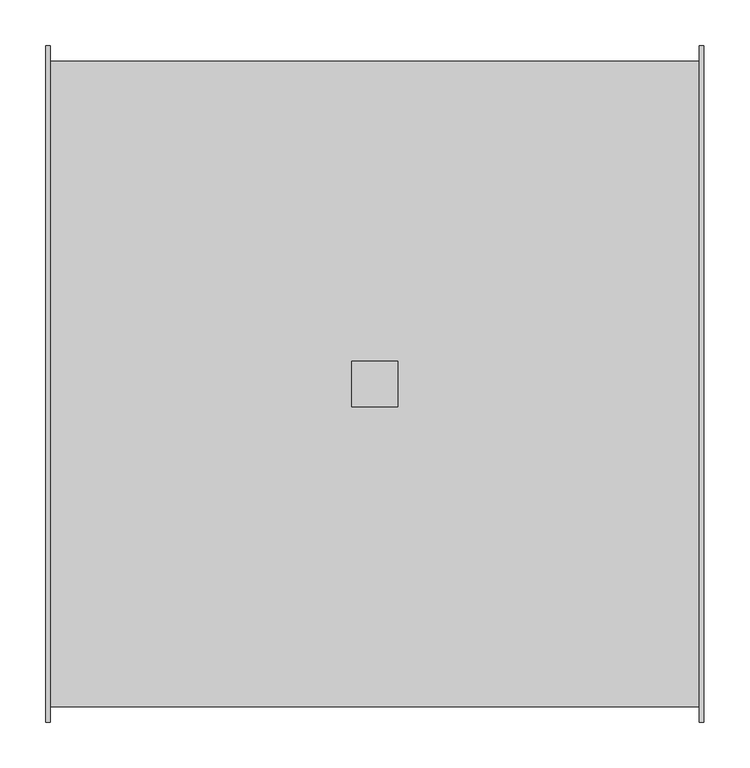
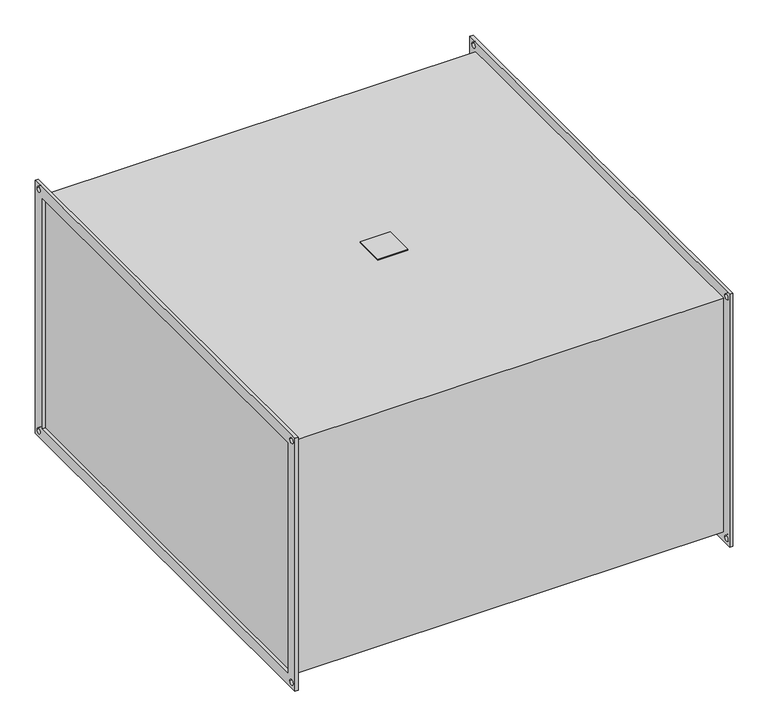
"""IFC4 building model written with IfcOpenShell, lengths in millimetres: damper geometry, KORF_Фильтр_Карманный_FKR : FKR 70-40  EU3."""

from ifc_helpers import new_model, si_unit, point, frame, frame_2d, origin, place, context, project, spatial, polyline, circle_curve, trimmed, segment, composite_curve, outline, extrude, source, transform, mapped, element, save


def damper_9ce763fa(model_context):
    return source(origin(), model_context, "Body", "SweptSolid", [
        extrude(outline(polyline([(335.0, -25.0), (335.0, 25.0), (385.0, 25.0), (385.0, -25.0), (335.0, -25.0)])), frame((0.0, 0.0, 203.0), z_axis=(0.0, 0.0, 1.0), x_axis=(1.0, 0.0, 0.0)), (0.0, 0.0, 1.0), 2.0),
        extrude(outline(polyline([(-370.0, 220.0), (370.0, 220.0), (370.0, -220.0), (-370.0, -220.0), (-370.0, 220.0)]), holes=[polyline([(-350.0, 200.0), (-350.0, -200.0), (350.0, -200.0), (350.0, 200.0), (-350.0, 200.0)]), composite_curve([segment(trimmed(circle_curve(frame_2d((360.0, 210.0)), 4.5), [point((355.5, 210.0))], [point((364.5, 210.0))], True, "CARTESIAN"), True, "CONTINUOUS"), segment(trimmed(circle_curve(frame_2d((360.0, 210.0)), 4.5), [point((364.5, 210.0))], [point((355.5, 210.0))], True, "CARTESIAN"), True, "CONTINUOUS")], self_intersect=False), composite_curve([segment(trimmed(circle_curve(frame_2d((-360.0, 210.0)), 4.5), [point((-364.5, 210.0))], [point((-355.5, 210.0))], True, "CARTESIAN"), True, "CONTINUOUS"), segment(trimmed(circle_curve(frame_2d((-360.0, 210.0)), 4.5), [point((-355.5, 210.0))], [point((-364.5, 210.0))], True, "CARTESIAN"), True, "CONTINUOUS")], self_intersect=False), composite_curve([segment(trimmed(circle_curve(frame_2d((-360.0, -210.0)), 4.5), [point((-364.5, -210.0))], [point((-355.5, -210.0))], True, "CARTESIAN"), True, "CONTINUOUS"), segment(trimmed(circle_curve(frame_2d((-360.0, -210.0)), 4.5), [point((-355.5, -210.0))], [point((-364.5, -210.0))], True, "CARTESIAN"), True, "CONTINUOUS")], self_intersect=False), composite_curve([segment(trimmed(circle_curve(frame_2d((360.0, -210.0)), 4.5), [point((355.5, -210.0))], [point((364.5, -210.0))], True, "CARTESIAN"), True, "CONTINUOUS"), segment(trimmed(circle_curve(frame_2d((360.0, -210.0)), 4.5), [point((364.5, -210.0))], [point((355.5, -210.0))], True, "CARTESIAN"), True, "CONTINUOUS")], self_intersect=False)]), frame((715.0, 0.0, 0.0), z_axis=(1.0, 0.0, 0.0), x_axis=(0.0, 1.0, 0.0)), (0.0, 0.0, 1.0), 5.0),
        extrude(outline(polyline([(-370.0, 220.0), (370.0, 220.0), (370.0, -220.0), (-370.0, -220.0), (-370.0, 220.0)]), holes=[polyline([(-350.0, 200.0), (-350.0, -200.0), (350.0, -200.0), (350.0, 200.0), (-350.0, 200.0)]), composite_curve([segment(trimmed(circle_curve(frame_2d((360.0, 210.0)), 4.5), [point((355.5, 210.0))], [point((364.5, 210.0))], True, "CARTESIAN"), True, "CONTINUOUS"), segment(trimmed(circle_curve(frame_2d((360.0, 210.0)), 4.5), [point((364.5, 210.0))], [point((355.5, 210.0))], True, "CARTESIAN"), True, "CONTINUOUS")], self_intersect=False), composite_curve([segment(trimmed(circle_curve(frame_2d((-360.0, 210.0)), 4.5), [point((-364.5, 210.0))], [point((-355.5, 210.0))], True, "CARTESIAN"), True, "CONTINUOUS"), segment(trimmed(circle_curve(frame_2d((-360.0, 210.0)), 4.5), [point((-355.5, 210.0))], [point((-364.5, 210.0))], True, "CARTESIAN"), True, "CONTINUOUS")], self_intersect=False), composite_curve([segment(trimmed(circle_curve(frame_2d((-360.0, -210.0)), 4.5), [point((-364.5, -210.0))], [point((-355.5, -210.0))], True, "CARTESIAN"), True, "CONTINUOUS"), segment(trimmed(circle_curve(frame_2d((-360.0, -210.0)), 4.5), [point((-355.5, -210.0))], [point((-364.5, -210.0))], True, "CARTESIAN"), True, "CONTINUOUS")], self_intersect=False), composite_curve([segment(trimmed(circle_curve(frame_2d((360.0, -210.0)), 4.5), [point((355.5, -210.0))], [point((364.5, -210.0))], True, "CARTESIAN"), True, "CONTINUOUS"), segment(trimmed(circle_curve(frame_2d((360.0, -210.0)), 4.5), [point((364.5, -210.0))], [point((355.5, -210.0))], True, "CARTESIAN"), True, "CONTINUOUS")], self_intersect=False)]), frame((0.0, 0.0, 0.0), z_axis=(1.0, 0.0, 0.0), x_axis=(0.0, 1.0, 0.0)), (0.0, 0.0, 1.0), 5.0),
        extrude(outline(polyline([(715.0, 353.0), (715.0, -353.0), (5.0, -353.0), (5.0, 353.0), (715.0, 353.0)])), frame((0.0, 0.0, -203.0), z_axis=(0.0, 0.0, 1.0), x_axis=(1.0, 0.0, 0.0)), (0.0, 0.0, 1.0), 406.0),
    ])


if __name__ == "__main__":
    model = new_model("IFC4")
    model_context = context("Model", 3, world=origin())
    ifc_project = project(units=[si_unit("LENGTHUNIT", "METRE", prefix="MILLI")], contexts=[model_context])
    site = spatial("IfcSite", under=ifc_project)
    building = spatial("IfcBuilding", under=site)
    placement = place(None, origin())
    damper_shape = damper_9ce763fa(model_context)
    element("IfcDamper", 1, ObjectType="KORF_Фильтр_Карманный_FKR : FKR 70-40  EU3", at=placement, inside=building, context=model_context, shape_type="MappedRepresentation", body=[
        mapped(damper_shape, transform((0.0, 0.0, 0.0), x_axis=(1.0, 0.0, 0.0), y_axis=(0.0, 1.0, 0.0), z_axis=(0.0, 0.0, 1.0))),
    ])
    save(model, "model.ifc")
